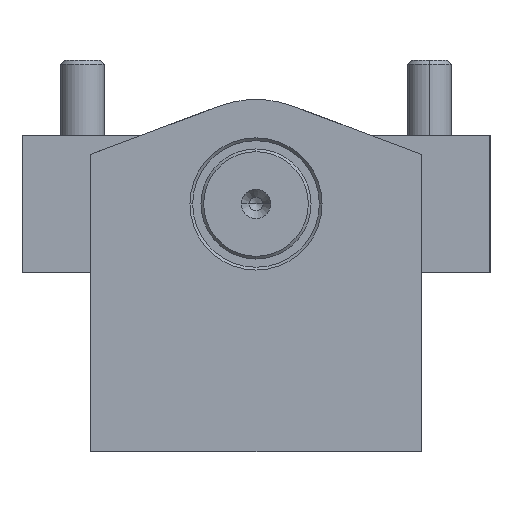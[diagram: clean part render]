
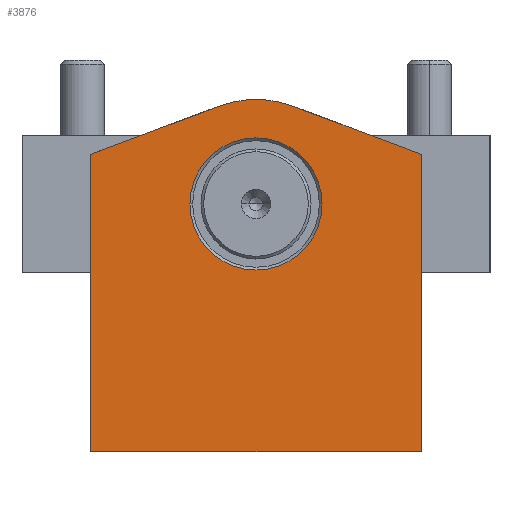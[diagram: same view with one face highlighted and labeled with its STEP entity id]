
A CAD part, front view. The second image highlights one B-rep face of the part: STEP entity #3876.
In plain terms, the highlighted planar face has unit normal (0, -1, 0).
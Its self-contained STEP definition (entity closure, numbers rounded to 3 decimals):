
#65 = EDGE_CURVE ( 'NONE', #5152, #5805, #180, .T. ) ;
#138 = VECTOR ( 'NONE', #157, 1000. ) ;
#157 = DIRECTION ( 'NONE',  ( -0.936, 0., -0.353 ) ) ;
#180 = LINE ( 'NONE', #1504, #4732 ) ;
#243 = EDGE_CURVE ( 'NONE', #4565, #2776, #2283, .T. ) ;
#313 = VECTOR ( 'NONE', #5346, 1000. ) ;
#358 = CARTESIAN_POINT ( 'NONE',  ( -30., -56.5, -35.5 ) ) ;
#371 = DIRECTION ( 'NONE',  ( 0., -1., 0. ) ) ;
#374 = ORIENTED_EDGE ( 'NONE', *, *, #3322, .T. ) ;
#537 = CARTESIAN_POINT ( 'NONE',  ( -30., -56.5, -35.5 ) ) ;
#558 = CARTESIAN_POINT ( 'NONE',  ( 12., -56.5, -44.5 ) ) ;
#624 = DIRECTION ( 'NONE',  ( 0.353, 0., 0.936 ) ) ;
#687 = VECTOR ( 'NONE', #4971, 1000. ) ;
#708 = CARTESIAN_POINT ( 'NONE',  ( 0., -56.5, -44.5 ) ) ;
#745 = CARTESIAN_POINT ( 'NONE',  ( 0., -56.5, -44.5 ) ) ;
#764 = EDGE_CURVE ( 'NONE', #5414, #5152, #4830, .T. ) ;
#765 = CARTESIAN_POINT ( 'NONE',  ( 6.699, -56.5, -26.72 ) ) ;
#918 = EDGE_CURVE ( 'NONE', #1880, #4820, #4568, .T. ) ;
#1026 = CARTESIAN_POINT ( 'NONE',  ( -6.699, -56.5, -26.72 ) ) ;
#1232 = FACE_OUTER_BOUND ( 'NONE', #5208, .T. ) ;
#1317 = EDGE_LOOP ( 'NONE', ( #5589, #1503 ) ) ;
#1503 = ORIENTED_EDGE ( 'NONE', *, *, #243, .F. ) ;
#1504 = CARTESIAN_POINT ( 'NONE',  ( 30., -56.5, -35.5 ) ) ;
#1781 = EDGE_CURVE ( 'NONE', #3841, #1880, #4208, .T. ) ;
#1880 = VERTEX_POINT ( 'NONE', #358 ) ;
#1892 = CIRCLE ( 'NONE', #5185, 19. ) ;
#1895 = LINE ( 'NONE', #1983, #5018 ) ;
#1983 = CARTESIAN_POINT ( 'NONE',  ( -30., -56.5, -89.5 ) ) ;
#2036 = ORIENTED_EDGE ( 'NONE', *, *, #1781, .T. ) ;
#2283 = CIRCLE ( 'NONE', #4738, 12. ) ;
#2357 = DIRECTION ( 'NONE',  ( 1., 0., 0. ) ) ;
#2373 = ORIENTED_EDGE ( 'NONE', *, *, #764, .T. ) ;
#2556 = PLANE ( 'NONE',  #3422 ) ;
#2578 = DIRECTION ( 'NONE',  ( -1., 0., 0. ) ) ;
#2748 = CARTESIAN_POINT ( 'NONE',  ( 0., -56.5, -44.5 ) ) ;
#2776 = VERTEX_POINT ( 'NONE', #5788 ) ;
#2826 = DIRECTION ( 'NONE',  ( -0.936, 0., 0.353 ) ) ;
#2938 = AXIS2_PLACEMENT_3D ( 'NONE', #745, #2984, #2578 ) ;
#2984 = DIRECTION ( 'NONE',  ( 0., -1., 0. ) ) ;
#3055 = DIRECTION ( 'NONE',  ( 1., 0., 0. ) ) ;
#3302 = DIRECTION ( 'NONE',  ( 0., -1., 0. ) ) ;
#3322 = EDGE_CURVE ( 'NONE', #5805, #3841, #1892, .T. ) ;
#3422 = AXIS2_PLACEMENT_3D ( 'NONE', #4370, #371, #3055 ) ;
#3526 = CARTESIAN_POINT ( 'NONE',  ( 30., -56.5, -89.5 ) ) ;
#3607 = CARTESIAN_POINT ( 'NONE',  ( 30., -56.5, -89.5 ) ) ;
#3803 = CIRCLE ( 'NONE', #2938, 12. ) ;
#3841 = VERTEX_POINT ( 'NONE', #1026 ) ;
#3842 = DIRECTION ( 'NONE',  ( 0., -1., 0. ) ) ;
#3876 = ADVANCED_FACE ( 'NONE', ( #5648, #1232 ), #2556, .T. ) ;
#4208 = LINE ( 'NONE', #5658, #138 ) ;
#4370 = CARTESIAN_POINT ( 'NONE',  ( 0., -56.5, -61.101 ) ) ;
#4481 = CARTESIAN_POINT ( 'NONE',  ( 30., -56.5, -35.5 ) ) ;
#4565 = VERTEX_POINT ( 'NONE', #558 ) ;
#4568 = LINE ( 'NONE', #537, #687 ) ;
#4732 = VECTOR ( 'NONE', #2826, 1000. ) ;
#4738 = AXIS2_PLACEMENT_3D ( 'NONE', #708, #3842, #4785 ) ;
#4785 = DIRECTION ( 'NONE',  ( -1., 0., 0. ) ) ;
#4820 = VERTEX_POINT ( 'NONE', #5803 ) ;
#4830 = LINE ( 'NONE', #3526, #313 ) ;
#4971 = DIRECTION ( 'NONE',  ( 0., 0., -1. ) ) ;
#5018 = VECTOR ( 'NONE', #2357, 1000. ) ;
#5152 = VERTEX_POINT ( 'NONE', #4481 ) ;
#5177 = ORIENTED_EDGE ( 'NONE', *, *, #65, .T. ) ;
#5185 = AXIS2_PLACEMENT_3D ( 'NONE', #2748, #3302, #624 ) ;
#5208 = EDGE_LOOP ( 'NONE', ( #5378, #2373, #5177, #374, #2036, #5398 ) ) ;
#5346 = DIRECTION ( 'NONE',  ( 0., 0., 1. ) ) ;
#5362 = EDGE_CURVE ( 'NONE', #2776, #4565, #3803, .T. ) ;
#5378 = ORIENTED_EDGE ( 'NONE', *, *, #5628, .T. ) ;
#5398 = ORIENTED_EDGE ( 'NONE', *, *, #918, .T. ) ;
#5414 = VERTEX_POINT ( 'NONE', #3607 ) ;
#5589 = ORIENTED_EDGE ( 'NONE', *, *, #5362, .F. ) ;
#5628 = EDGE_CURVE ( 'NONE', #4820, #5414, #1895, .T. ) ;
#5648 = FACE_BOUND ( 'NONE', #1317, .T. ) ;
#5658 = CARTESIAN_POINT ( 'NONE',  ( -6.699, -56.5, -26.72 ) ) ;
#5788 = CARTESIAN_POINT ( 'NONE',  ( -12., -56.5, -44.5 ) ) ;
#5803 = CARTESIAN_POINT ( 'NONE',  ( -30., -56.5, -89.5 ) ) ;
#5805 = VERTEX_POINT ( 'NONE', #765 ) ;
